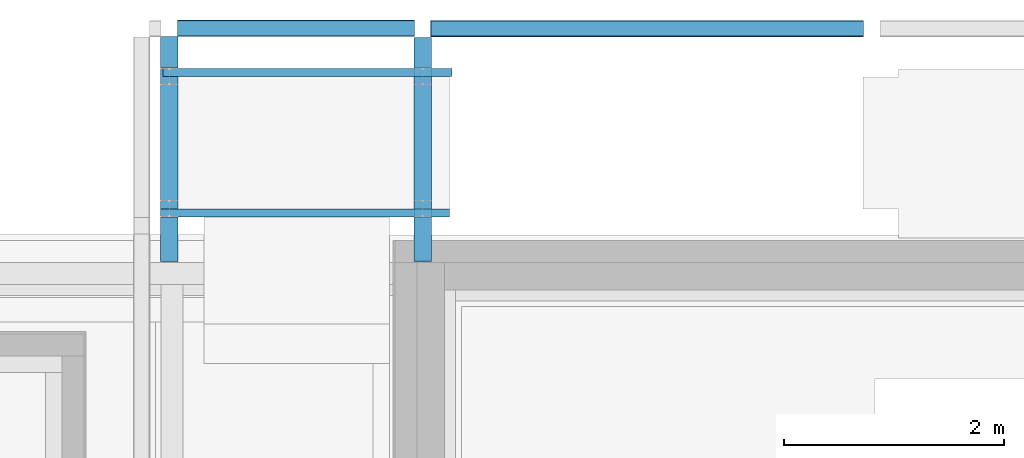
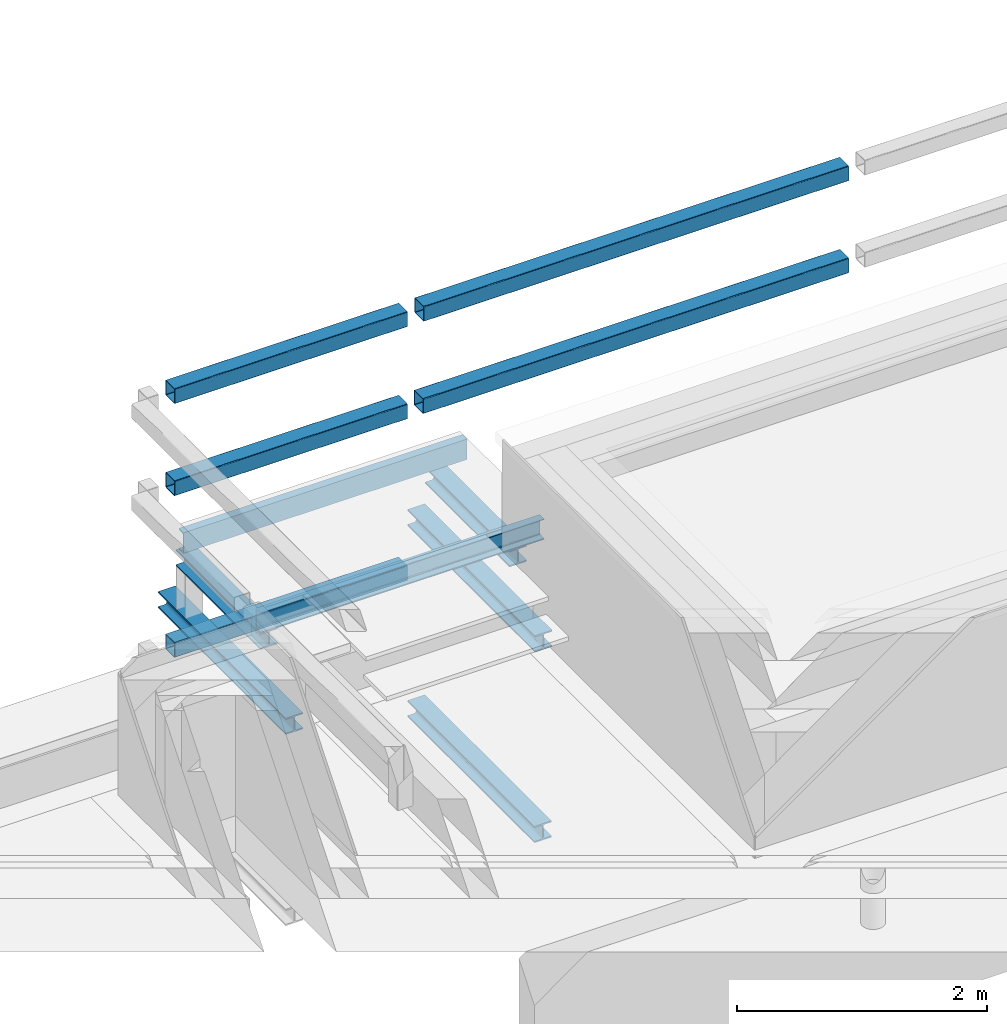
# One storey, part 2 of 8: 13 beams.
"""IFC2X3 building model written with IfcOpenShell, lengths in centimetres."""

from ifc_helpers import new_model, entity, si_unit, converted_unit, derived_unit, direction, frame, frame_2d, origin, place, context, subcontext, project, spatial, polyline, circle_curve, parameter, trimmed, segment, composite_curve, i_section, outline, extrude, material, type_object, element, save


model = new_model("IFC2X3")

# Units and contexts
model_context = context("Model", 3, precision=0.001, world=origin(), true_north=direction((6.12303176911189e-17, 1.0)))
body_context = subcontext(model_context, "Body", "Model", "MODEL_VIEW")
ifc_project = project(units=[si_unit("LENGTHUNIT", "METRE", prefix="CENTI"), si_unit("AREAUNIT", "SQUARE_METRE"), si_unit("VOLUMEUNIT", "CUBIC_METRE"), converted_unit("PLANEANGLEUNIT", "DEGREE", entity("IfcRatioMeasure", 0.0174532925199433), si_unit("PLANEANGLEUNIT", "RADIAN"), dimensions=[0, 0, 0, 0, 0, 0, 0]), si_unit("MASSUNIT", "GRAM", prefix="KILO"), derived_unit("MASSDENSITYUNIT", [(si_unit("MASSUNIT", "GRAM", prefix="KILO"), 1), (si_unit("LENGTHUNIT", "METRE"), -3)]), derived_unit("MOMENTOFINERTIAUNIT", [(si_unit("LENGTHUNIT", "METRE"), 4)]), si_unit("TIMEUNIT", "SECOND"), si_unit("FREQUENCYUNIT", "HERTZ"), si_unit("THERMODYNAMICTEMPERATUREUNIT", "DEGREE_CELSIUS"), derived_unit("THERMALTRANSMITTANCEUNIT", [(si_unit("MASSUNIT", "GRAM", prefix="KILO"), 1), (si_unit("THERMODYNAMICTEMPERATUREUNIT", "KELVIN"), -1), (si_unit("TIMEUNIT", "SECOND"), -3)]), derived_unit("VOLUMETRICFLOWRATEUNIT", [(si_unit("LENGTHUNIT", "METRE"), 3), (si_unit("TIMEUNIT", "SECOND"), -1)]), si_unit("ELECTRICCURRENTUNIT", "AMPERE"), si_unit("ELECTRICVOLTAGEUNIT", "VOLT"), si_unit("POWERUNIT", "WATT"), si_unit("FORCEUNIT", "NEWTON", prefix="KILO"), si_unit("ILLUMINANCEUNIT", "LUX"), si_unit("LUMINOUSFLUXUNIT", "LUMEN"), si_unit("LUMINOUSINTENSITYUNIT", "CANDELA"), derived_unit("USERDEFINED", [(si_unit("MASSUNIT", "GRAM", prefix="KILO"), -1), (si_unit("LENGTHUNIT", "METRE"), -2), (si_unit("TIMEUNIT", "SECOND"), 3), (si_unit("LUMINOUSFLUXUNIT", "LUMEN"), 1)]), derived_unit("LINEARVELOCITYUNIT", [(si_unit("LENGTHUNIT", "METRE"), 1), (si_unit("TIMEUNIT", "SECOND"), -1)]), si_unit("PRESSUREUNIT", "PASCAL"), derived_unit("USERDEFINED", [(si_unit("LENGTHUNIT", "METRE"), -2), (si_unit("MASSUNIT", "GRAM", prefix="KILO"), 1), (si_unit("TIMEUNIT", "SECOND"), -2)]), derived_unit("LINEARFORCEUNIT", [(si_unit("MASSUNIT", "GRAM", prefix="KILO"), 1), (si_unit("LENGTHUNIT", "METRE"), 1), (si_unit("TIMEUNIT", "SECOND"), -2), (si_unit("LENGTHUNIT", "METRE"), -1)]), derived_unit("PLANARFORCEUNIT", [(si_unit("MASSUNIT", "GRAM", prefix="KILO"), 1), (si_unit("LENGTHUNIT", "METRE"), 1), (si_unit("TIMEUNIT", "SECOND"), -2), (si_unit("LENGTHUNIT", "METRE"), -2)])], contexts=[model_context])

# Site, building, storey
site_placement = place(None, origin())
site = spatial("IfcSite", under=ifc_project, at=site_placement, Name="Default", CompositionType="ELEMENT")
building_placement = place(site_placement, origin())
building = spatial("IfcBuilding", under=site, at=building_placement, CompositionType="ELEMENT")
storey_placement = place(building_placement, frame((0.0, 0.0, 970.0)))
storey = spatial("IfcBuildingStorey", under=building, at=storey_placement, Name="Poziom 2K +9,70", CompositionType="ELEMENT", Elevation=970.0)

# Beams
ifc_material = material(Name="Stal konstrukcyjna - S235")
beam_type_1 = type_object("IfcBeamType", Name="STAL RK - Ksztaltowniki zamkniete kwadratowe:RK150x6", PredefinedType="NOTDEFINED")
beam_1_placement = place(storey_placement, frame((-579.26511665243, 2317.08692648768, 85.0), z_axis=(0.0, 0.0, 1.0), x_axis=(-1.0, 0.0, 0.0)))
element("IfcBeam", 1, at=beam_1_placement, inside=storey, type_object=beam_type_1, material=ifc_material, Name="STAL RK - Ksztaltowniki zamkniete kwadratowe:RK150x6", ObjectType="STAL RK - Ksztaltowniki zamkniete kwadratowe:RK150x6", context=body_context, shape_type="SweptSolid", body=[
    extrude(outline(composite_curve([segment(trimmed(circle_curve(frame_2d((-6.29999999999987, -6.30000000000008), x_axis=(1.0, 0.0)), 1.2), [parameter(180.0)], [parameter(270.0)], True, "PARAMETER"), True, "CONTINUOUS"), segment(polyline([(-6.29999999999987, -7.50000000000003), (6.29999999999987, -7.50000000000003)]), True, "CONTINUOUS"), segment(trimmed(circle_curve(frame_2d((6.3000000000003, -6.3000000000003), x_axis=(1.0, 0.0)), 1.19999999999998), [parameter(270.0)], [parameter(360.0)], True, "PARAMETER"), True, "CONTINUOUS"), segment(polyline([(7.50000000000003, -6.30000000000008), (7.50000000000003, 6.29999999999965)]), True, "CONTINUOUS"), segment(trimmed(circle_curve(frame_2d((6.29999999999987, 6.29999999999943), x_axis=(1.0, 0.0)), 1.20000000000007), [parameter(360.0)], [parameter(89.9999999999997)], True, "PARAMETER"), True, "CONTINUOUS"), segment(polyline([(6.29999999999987, 7.49999999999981), (-6.30000000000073, 7.49999999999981)]), True, "CONTINUOUS"), segment(trimmed(circle_curve(frame_2d((-6.30000000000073, 6.30000000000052), x_axis=(1.0, 0.0)), 1.19999999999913), [parameter(89.9999999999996)], [parameter(179.999999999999)], True, "PARAMETER"), True, "CONTINUOUS"), segment(polyline([(-7.50000000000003, 6.30000000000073), (-7.50000000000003, -6.29999999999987)]), True, "CONTINUOUS")], self_intersect=False), holes=[composite_curve([segment(polyline([(-6.90000000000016, -6.29999999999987), (-6.90000000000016, 6.30000000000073)]), True, "CONTINUOUS"), segment(trimmed(circle_curve(frame_2d((-6.30000000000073, 6.30000000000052), x_axis=(1.0, 0.0)), 0.59999999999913), [parameter(90.0000000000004)], [parameter(180.0)], True, "PARAMETER"), False, "CONTINUOUS"), segment(polyline([(-6.30000000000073, 6.89999999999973), (6.29999999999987, 6.89999999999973)]), True, "CONTINUOUS"), segment(trimmed(circle_curve(frame_2d((6.29999999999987, 6.29999999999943), x_axis=(1.0, 0.0)), 0.600000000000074), [parameter(4.07110999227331e-13)], [parameter(90.0000000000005)], True, "PARAMETER"), False, "CONTINUOUS"), segment(polyline([(6.90000000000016, 6.29999999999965), (6.90000000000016, -6.30000000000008)]), True, "CONTINUOUS"), segment(trimmed(circle_curve(frame_2d((6.3000000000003, -6.3000000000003), x_axis=(1.0, 0.0)), 0.59999999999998), [parameter(270.0)], [parameter(5.08888749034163e-13)], True, "PARAMETER"), False, "CONTINUOUS"), segment(polyline([(6.29999999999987, -6.89999999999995), (-6.29999999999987, -6.89999999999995)]), True, "CONTINUOUS"), segment(trimmed(circle_curve(frame_2d((-6.29999999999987, -6.30000000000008), x_axis=(1.0, 0.0)), 0.600000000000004), [parameter(180.0)], [parameter(270.0)], True, "PARAMETER"), False, "CONTINUOUS")], self_intersect=False)]), frame((-0.0999999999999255, -0.259999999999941, 7.50000000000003), z_axis=(1.0, 0.0, 0.0), x_axis=(0.0, -1.0, 0.0)), (0.0, 0.0, 1.0), 393.029193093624),
])
beam_2_placement = place(storey_placement, frame((-579.26511665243, 2317.08692648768, 175.0), z_axis=(0.0, 0.0, 1.0), x_axis=(-1.0, 0.0, 0.0)))
element("IfcBeam", 2, at=beam_2_placement, inside=storey, type_object=beam_type_1, material=ifc_material, Name="STAL RK - Ksztaltowniki zamkniete kwadratowe:RK150x6", ObjectType="STAL RK - Ksztaltowniki zamkniete kwadratowe:RK150x6", context=body_context, shape_type="SweptSolid", body=[
    extrude(outline(composite_curve([segment(trimmed(circle_curve(frame_2d((-6.29999999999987, -6.29999999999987), x_axis=(1.0, 0.0)), 1.2), [parameter(180.0)], [parameter(270.0)], True, "PARAMETER"), True, "CONTINUOUS"), segment(polyline([(-6.29999999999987, -7.49999999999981), (6.29999999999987, -7.49999999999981)]), True, "CONTINUOUS"), segment(trimmed(circle_curve(frame_2d((6.3000000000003, -6.30000000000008), x_axis=(1.0, 0.0)), 1.19999999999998), [parameter(270.0)], [parameter(360.0)], True, "PARAMETER"), True, "CONTINUOUS"), segment(polyline([(7.50000000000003, -6.29999999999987), (7.50000000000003, 6.29999999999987)]), True, "CONTINUOUS"), segment(trimmed(circle_curve(frame_2d((6.29999999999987, 6.29999999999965), x_axis=(1.0, 0.0)), 1.20000000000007), [parameter(360.0)], [parameter(89.9999999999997)], True, "PARAMETER"), True, "CONTINUOUS"), segment(polyline([(6.29999999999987, 7.50000000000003), (-6.30000000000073, 7.50000000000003)]), True, "CONTINUOUS"), segment(trimmed(circle_curve(frame_2d((-6.30000000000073, 6.30000000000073), x_axis=(1.0, 0.0)), 1.19999999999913), [parameter(89.9999999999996)], [parameter(179.999999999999)], True, "PARAMETER"), True, "CONTINUOUS"), segment(polyline([(-7.50000000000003, 6.30000000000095), (-7.50000000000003, -6.29999999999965)]), True, "CONTINUOUS")], self_intersect=False), holes=[composite_curve([segment(polyline([(-6.90000000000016, -6.29999999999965), (-6.90000000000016, 6.30000000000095)]), True, "CONTINUOUS"), segment(trimmed(circle_curve(frame_2d((-6.30000000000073, 6.30000000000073), x_axis=(1.0, 0.0)), 0.59999999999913), [parameter(90.0000000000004)], [parameter(180.0)], True, "PARAMETER"), False, "CONTINUOUS"), segment(polyline([(-6.30000000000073, 6.89999999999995), (6.29999999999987, 6.89999999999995)]), True, "CONTINUOUS"), segment(trimmed(circle_curve(frame_2d((6.29999999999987, 6.29999999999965), x_axis=(1.0, 0.0)), 0.600000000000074), [parameter(4.07110999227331e-13)], [parameter(90.0000000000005)], True, "PARAMETER"), False, "CONTINUOUS"), segment(polyline([(6.90000000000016, 6.29999999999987), (6.90000000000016, -6.29999999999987)]), True, "CONTINUOUS"), segment(trimmed(circle_curve(frame_2d((6.3000000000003, -6.30000000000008), x_axis=(1.0, 0.0)), 0.59999999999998), [parameter(270.0)], [parameter(5.08888749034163e-13)], True, "PARAMETER"), False, "CONTINUOUS"), segment(polyline([(6.29999999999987, -6.89999999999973), (-6.29999999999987, -6.89999999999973)]), True, "CONTINUOUS"), segment(trimmed(circle_curve(frame_2d((-6.29999999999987, -6.29999999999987), x_axis=(1.0, 0.0)), 0.600000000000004), [parameter(180.0)], [parameter(270.0)], True, "PARAMETER"), False, "CONTINUOUS")], self_intersect=False)]), frame((-0.0999999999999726, -0.259999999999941, 7.50000000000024), z_axis=(1.0, 0.0, 0.0), x_axis=(0.0, -1.0, 0.0)), (0.0, 0.0, 1.0), 392.429193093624),
])
beam_3_placement = place(storey_placement, frame((-811.765115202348, 2317.36756435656, -73.0), z_axis=(0.0, 0.0, 1.0), x_axis=(-1.0, 0.0, 0.0)))
element("IfcBeam", 3, at=beam_3_placement, inside=storey, type_object=beam_type_1, material=ifc_material, Name="STAL RK - Ksztaltowniki zamkniete kwadratowe:RK150x6", ObjectType="STAL RK - Ksztaltowniki zamkniete kwadratowe:RK150x6", context=body_context, shape_type="SweptSolid", body=[
    extrude(outline(composite_curve([segment(trimmed(circle_curve(frame_2d((6.29999999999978, -6.29999999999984), x_axis=(1.0, 0.0)), 1.2), [parameter(270.0)], [parameter(359.999999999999)], True, "PARAMETER"), True, "CONTINUOUS"), segment(polyline([(7.49999999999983, -6.29999999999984), (7.49999999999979, 6.29999999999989)]), True, "CONTINUOUS"), segment(trimmed(circle_curve(frame_2d((6.29999999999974, 6.30000000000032), x_axis=(0.0, 1.0)), 1.19999999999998), [parameter(270.0)], [parameter(360.0)], True, "PARAMETER"), True, "CONTINUOUS"), segment(polyline([(6.29999999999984, 7.50000000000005), (-6.2999999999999, 7.5)]), True, "CONTINUOUS"), segment(trimmed(circle_curve(frame_2d((-6.3, 6.29999999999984), x_axis=(-1.0, 0.0)), 1.20000000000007), [parameter(270.0)], [parameter(0.0)], True, "PARAMETER"), True, "CONTINUOUS"), segment(polyline([(-7.49999999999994, 6.29999999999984), (-7.4999999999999, -6.30000000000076)]), True, "CONTINUOUS"), segment(trimmed(circle_curve(frame_2d((-6.30000000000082, -6.30000000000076), x_axis=(0.0, -1.0)), 1.19999999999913), [parameter(270.0)], [parameter(360.0)], True, "PARAMETER"), True, "CONTINUOUS"), segment(polyline([(-6.30000000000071, -7.50000000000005), (6.29999999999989, -7.5)]), True, "CONTINUOUS")], self_intersect=False), holes=[composite_curve([segment(polyline([(6.29999999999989, -6.90000000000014), (-6.30000000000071, -6.90000000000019)]), True, "CONTINUOUS"), segment(trimmed(circle_curve(frame_2d((-6.30000000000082, -6.30000000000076), x_axis=(-1.0, 0.0)), 0.59999999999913), [parameter(4.07110999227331e-13)], [parameter(90.0000000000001)], True, "PARAMETER"), False, "CONTINUOUS"), segment(polyline([(-6.89999999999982, -6.30000000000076), (-6.89999999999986, 6.29999999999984)]), True, "CONTINUOUS"), segment(trimmed(circle_curve(frame_2d((-6.3, 6.29999999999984), x_axis=(0.0, 1.0)), 0.600000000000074), [parameter(5.08888749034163e-14)], [parameter(90.0000000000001)], True, "PARAMETER"), False, "CONTINUOUS"), segment(polyline([(-6.29999999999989, 6.90000000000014), (6.29999999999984, 6.90000000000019)]), True, "CONTINUOUS"), segment(trimmed(circle_curve(frame_2d((6.29999999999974, 6.30000000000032), x_axis=(1.0, 0.0)), 0.59999999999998), [parameter(360.0)], [parameter(90.0000000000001)], True, "PARAMETER"), False, "CONTINUOUS"), segment(polyline([(6.89999999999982, 6.29999999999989), (6.89999999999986, -6.29999999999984)]), True, "CONTINUOUS"), segment(trimmed(circle_curve(frame_2d((6.29999999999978, -6.29999999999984), x_axis=(0.0, -1.0)), 0.600000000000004), [parameter(1.52666624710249e-13)], [parameter(90.0000000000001)], True, "PARAMETER"), False, "CONTINUOUS")], self_intersect=False)]), frame((174.859013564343, -0.259999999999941, 7.50000000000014), z_axis=(1.0, 0.0, 0.0), x_axis=(0.0, 0.0, 1.0)), (0.0, 0.0, 1.0), 215.070805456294),
])
beam_4_placement = place(storey_placement, frame((-811.765115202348, 2317.36756435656, 85.0), z_axis=(0.0, 0.0, 1.0), x_axis=(-1.0, 0.0, 0.0)))
element("IfcBeam", 4, at=beam_4_placement, inside=storey, type_object=beam_type_1, material=ifc_material, Name="STAL RK - Ksztaltowniki zamkniete kwadratowe:RK150x6", ObjectType="STAL RK - Ksztaltowniki zamkniete kwadratowe:RK150x6", context=body_context, shape_type="SweptSolid", body=[
    extrude(outline(composite_curve([segment(trimmed(circle_curve(frame_2d((6.29999999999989, -6.29999999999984), x_axis=(1.0, 0.0)), 1.2), [parameter(270.0)], [parameter(359.999999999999)], True, "PARAMETER"), True, "CONTINUOUS"), segment(polyline([(7.50000000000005, -6.29999999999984), (7.5, 6.29999999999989)]), True, "CONTINUOUS"), segment(trimmed(circle_curve(frame_2d((6.30000000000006, 6.30000000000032), x_axis=(0.0, 1.0)), 1.19999999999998), [parameter(270.0)], [parameter(360.0)], True, "PARAMETER"), True, "CONTINUOUS"), segment(polyline([(6.30000000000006, 7.50000000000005), (-6.29999999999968, 7.5)]), True, "CONTINUOUS"), segment(trimmed(circle_curve(frame_2d((-6.29999999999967, 6.29999999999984), x_axis=(-1.0, 0.0)), 1.20000000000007), [parameter(270.0)], [parameter(0.0)], True, "PARAMETER"), True, "CONTINUOUS"), segment(polyline([(-7.49999999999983, 6.29999999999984), (-7.49999999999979, -6.30000000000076)]), True, "CONTINUOUS"), segment(trimmed(circle_curve(frame_2d((-6.30000000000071, -6.30000000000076), x_axis=(0.0, -1.0)), 1.19999999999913), [parameter(270.0)], [parameter(360.0)], True, "PARAMETER"), True, "CONTINUOUS"), segment(polyline([(-6.30000000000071, -7.50000000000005), (6.29999999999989, -7.5)]), True, "CONTINUOUS")], self_intersect=False), holes=[composite_curve([segment(polyline([(6.29999999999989, -6.90000000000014), (-6.30000000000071, -6.90000000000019)]), True, "CONTINUOUS"), segment(trimmed(circle_curve(frame_2d((-6.30000000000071, -6.30000000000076), x_axis=(-1.0, 0.0)), 0.59999999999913), [parameter(4.07110999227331e-13)], [parameter(90.0000000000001)], True, "PARAMETER"), False, "CONTINUOUS"), segment(polyline([(-6.89999999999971, -6.30000000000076), (-6.89999999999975, 6.29999999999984)]), True, "CONTINUOUS"), segment(trimmed(circle_curve(frame_2d((-6.29999999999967, 6.29999999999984), x_axis=(0.0, 1.0)), 0.600000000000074), [parameter(5.08888749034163e-14)], [parameter(90.0000000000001)], True, "PARAMETER"), False, "CONTINUOUS"), segment(polyline([(-6.29999999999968, 6.90000000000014), (6.30000000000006, 6.90000000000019)]), True, "CONTINUOUS"), segment(trimmed(circle_curve(frame_2d((6.30000000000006, 6.30000000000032), x_axis=(1.0, 0.0)), 0.59999999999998), [parameter(360.0)], [parameter(90.0000000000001)], True, "PARAMETER"), False, "CONTINUOUS"), segment(polyline([(6.89999999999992, 6.29999999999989), (6.89999999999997, -6.29999999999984)]), True, "CONTINUOUS"), segment(trimmed(circle_curve(frame_2d((6.29999999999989, -6.29999999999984), x_axis=(0.0, -1.0)), 0.600000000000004), [parameter(1.52666624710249e-13)], [parameter(90.0000000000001)], True, "PARAMETER"), False, "CONTINUOUS")], self_intersect=False)]), frame((174.859013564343, -0.259999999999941, 7.50000000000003), z_axis=(1.0, 0.0, 0.0), x_axis=(0.0, 0.0, 1.0)), (0.0, 0.0, 1.0), 215.070805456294),
])
beam_5_placement = place(storey_placement, frame((-811.765115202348, 2317.3653336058, 175.0), z_axis=(0.0, 0.0, 1.0), x_axis=(-1.0, 0.0, 0.0)))
element("IfcBeam", 5, at=beam_5_placement, inside=storey, type_object=beam_type_1, material=ifc_material, Name="STAL RK - Ksztaltowniki zamkniete kwadratowe:RK150x6", ObjectType="STAL RK - Ksztaltowniki zamkniete kwadratowe:RK150x6", context=body_context, shape_type="SweptSolid", body=[
    extrude(outline(composite_curve([segment(trimmed(circle_curve(frame_2d((6.29999999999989, -6.29999999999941), x_axis=(1.0, 0.0)), 1.2), [parameter(270.0)], [parameter(359.999999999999)], True, "PARAMETER"), True, "CONTINUOUS"), segment(polyline([(7.50000000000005, -6.29999999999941), (7.5, 6.30000000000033)]), True, "CONTINUOUS"), segment(trimmed(circle_curve(frame_2d((6.30000000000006, 6.30000000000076), x_axis=(0.0, 1.0)), 1.19999999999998), [parameter(270.0)], [parameter(360.0)], True, "PARAMETER"), True, "CONTINUOUS"), segment(polyline([(6.30000000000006, 7.50000000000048), (-6.29999999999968, 7.50000000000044)]), True, "CONTINUOUS"), segment(trimmed(circle_curve(frame_2d((-6.29999999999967, 6.30000000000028), x_axis=(-1.0, 0.0)), 1.20000000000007), [parameter(270.0)], [parameter(0.0)], True, "PARAMETER"), True, "CONTINUOUS"), segment(polyline([(-7.49999999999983, 6.30000000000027), (-7.49999999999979, -6.30000000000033)]), True, "CONTINUOUS"), segment(trimmed(circle_curve(frame_2d((-6.30000000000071, -6.30000000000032), x_axis=(0.0, -1.0)), 1.19999999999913), [parameter(270.0)], [parameter(360.0)], True, "PARAMETER"), True, "CONTINUOUS"), segment(polyline([(-6.30000000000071, -7.49999999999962), (6.29999999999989, -7.49999999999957)]), True, "CONTINUOUS")], self_intersect=False), holes=[composite_curve([segment(polyline([(6.29999999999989, -6.89999999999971), (-6.30000000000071, -6.89999999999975)]), True, "CONTINUOUS"), segment(trimmed(circle_curve(frame_2d((-6.30000000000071, -6.30000000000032), x_axis=(-1.0, 0.0)), 0.59999999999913), [parameter(4.07110999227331e-13)], [parameter(90.0000000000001)], True, "PARAMETER"), False, "CONTINUOUS"), segment(polyline([(-6.89999999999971, -6.30000000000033), (-6.89999999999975, 6.30000000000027)]), True, "CONTINUOUS"), segment(trimmed(circle_curve(frame_2d((-6.29999999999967, 6.30000000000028), x_axis=(0.0, 1.0)), 0.600000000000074), [parameter(5.08888749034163e-14)], [parameter(90.0000000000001)], True, "PARAMETER"), False, "CONTINUOUS"), segment(polyline([(-6.29999999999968, 6.90000000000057), (6.30000000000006, 6.90000000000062)]), True, "CONTINUOUS"), segment(trimmed(circle_curve(frame_2d((6.30000000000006, 6.30000000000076), x_axis=(1.0, 0.0)), 0.59999999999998), [parameter(360.0)], [parameter(90.0000000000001)], True, "PARAMETER"), False, "CONTINUOUS"), segment(polyline([(6.89999999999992, 6.30000000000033), (6.89999999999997, -6.29999999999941)]), True, "CONTINUOUS"), segment(trimmed(circle_curve(frame_2d((6.29999999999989, -6.29999999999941), x_axis=(0.0, -1.0)), 0.600000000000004), [parameter(1.52666624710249e-13)], [parameter(90.0000000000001)], True, "PARAMETER"), False, "CONTINUOUS")], self_intersect=False)]), frame((174.859013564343, -0.259999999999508, 7.50000000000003), z_axis=(1.0, 0.0, 0.0), x_axis=(0.0, 0.0, 1.0)), (0.0, 0.0, 1.0), 215.070805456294),
])
beam_6_placement = place(storey_placement, frame((-811.765115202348, 2317.36756435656, -73.0), z_axis=(0.0, 0.0, 1.0), x_axis=(-1.0, 0.0, 0.0)))
element("IfcBeam", 6, at=beam_6_placement, inside=storey, type_object=beam_type_1, material=ifc_material, Name="STAL RK - Ksztaltowniki zamkniete kwadratowe:RK150x6", ObjectType="STAL RK - Ksztaltowniki zamkniete kwadratowe:RK150x6", context=body_context, shape_type="SweptSolid", body=[
    extrude(outline(composite_curve([segment(trimmed(circle_curve(frame_2d((6.29999999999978, -6.29999999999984), x_axis=(1.0, 0.0)), 1.2), [parameter(270.0)], [parameter(359.999999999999)], True, "PARAMETER"), True, "CONTINUOUS"), segment(polyline([(7.49999999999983, -6.29999999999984), (7.49999999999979, 6.29999999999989)]), True, "CONTINUOUS"), segment(trimmed(circle_curve(frame_2d((6.29999999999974, 6.30000000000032), x_axis=(0.0, 1.0)), 1.19999999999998), [parameter(270.0)], [parameter(360.0)], True, "PARAMETER"), True, "CONTINUOUS"), segment(polyline([(6.29999999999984, 7.50000000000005), (-6.2999999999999, 7.5)]), True, "CONTINUOUS"), segment(trimmed(circle_curve(frame_2d((-6.3, 6.29999999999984), x_axis=(-1.0, 0.0)), 1.20000000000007), [parameter(270.0)], [parameter(0.0)], True, "PARAMETER"), True, "CONTINUOUS"), segment(polyline([(-7.49999999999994, 6.29999999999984), (-7.4999999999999, -6.30000000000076)]), True, "CONTINUOUS"), segment(trimmed(circle_curve(frame_2d((-6.30000000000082, -6.30000000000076), x_axis=(0.0, -1.0)), 1.19999999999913), [parameter(270.0)], [parameter(360.0)], True, "PARAMETER"), True, "CONTINUOUS"), segment(polyline([(-6.30000000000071, -7.50000000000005), (6.29999999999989, -7.5)]), True, "CONTINUOUS")], self_intersect=False), holes=[composite_curve([segment(polyline([(6.29999999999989, -6.90000000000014), (-6.30000000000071, -6.90000000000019)]), True, "CONTINUOUS"), segment(trimmed(circle_curve(frame_2d((-6.30000000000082, -6.30000000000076), x_axis=(-1.0, 0.0)), 0.59999999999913), [parameter(4.07110999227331e-13)], [parameter(90.0000000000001)], True, "PARAMETER"), False, "CONTINUOUS"), segment(polyline([(-6.89999999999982, -6.30000000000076), (-6.89999999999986, 6.29999999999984)]), True, "CONTINUOUS"), segment(trimmed(circle_curve(frame_2d((-6.3, 6.29999999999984), x_axis=(0.0, 1.0)), 0.600000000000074), [parameter(5.08888749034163e-14)], [parameter(90.0000000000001)], True, "PARAMETER"), False, "CONTINUOUS"), segment(polyline([(-6.29999999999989, 6.90000000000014), (6.29999999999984, 6.90000000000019)]), True, "CONTINUOUS"), segment(trimmed(circle_curve(frame_2d((6.29999999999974, 6.30000000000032), x_axis=(1.0, 0.0)), 0.59999999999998), [parameter(360.0)], [parameter(90.0000000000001)], True, "PARAMETER"), False, "CONTINUOUS"), segment(polyline([(6.89999999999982, 6.29999999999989), (6.89999999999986, -6.29999999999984)]), True, "CONTINUOUS"), segment(trimmed(circle_curve(frame_2d((6.29999999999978, -6.29999999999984), x_axis=(0.0, -1.0)), 0.600000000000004), [parameter(1.52666624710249e-13)], [parameter(90.0000000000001)], True, "PARAMETER"), False, "CONTINUOUS")], self_intersect=False)]), frame((174.859013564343, -0.259999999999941, 7.50000000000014), z_axis=(1.0, 0.0, 0.0), x_axis=(0.0, 0.0, 1.0)), (0.0, 0.0, 1.0), 215.070805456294),
])
beam_type_2 = type_object("IfcBeamType", Name="HE-B:HEB160", PredefinedType="NOTDEFINED")
beam_7_placement = place(storey_placement, frame((-979.094309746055, 2309.7124511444, -189.0), z_axis=(0.0, 0.0, 1.0), x_axis=(0.0, -1.0, 0.0)))
element("IfcBeam", 7, at=beam_7_placement, inside=storey, type_object=beam_type_2, material=ifc_material, Name="HE-B:HEB160", ObjectType="HE-B:HEB160", context=body_context, shape_type="SweptSolid", body=[
    extrude(i_section(OverallWidth=16.0, OverallDepth=16.0, WebThickness=0.800000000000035, FlangeThickness=1.30000000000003, FilletRadius=1.50000000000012, at=frame_2d((2.1627144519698e-13, 3.24629212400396e-13), x_axis=(0.0, 1.0))), frame((0.289999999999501, 0.0, -8.0), z_axis=(1.0, 0.0, 0.0), x_axis=(0.0, 0.0, -1.0)), (0.0, 0.0, 1.0), 203.02),
])
beam_8_placement = place(storey_placement, frame((-979.094309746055, 2309.7124511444, -2.39999999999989), z_axis=(0.0, 0.0, 1.0), x_axis=(0.0, -1.0, 0.0)))
element("IfcBeam", 8, at=beam_8_placement, inside=storey, type_object=beam_type_2, material=ifc_material, Name="HE-B:HEB160", ObjectType="HE-B:HEB160", context=body_context, shape_type="SweptSolid", body=[
    extrude(i_section(OverallWidth=16.0, OverallDepth=16.0, WebThickness=0.800000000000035, FlangeThickness=1.30000000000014, FilletRadius=1.50000000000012, at=frame_2d((0.0, 3.24629212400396e-13), x_axis=(0.0, 1.0))), frame((0.300000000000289, 0.0, -8.0), z_axis=(1.0, 0.0, 0.0), x_axis=(0.0, 0.0, -1.0)), (0.0, 0.0, 1.0), 203.7),
])
beam_9_placement = place(storey_placement, frame((-1209.22475324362, 2309.7124511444, -2.39999999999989), z_axis=(0.0, 0.0, 1.0), x_axis=(0.0, -1.0, 0.0)))
element("IfcBeam", 9, at=beam_9_placement, inside=storey, type_object=beam_type_2, material=ifc_material, Name="HE-B:HEB160", ObjectType="HE-B:HEB160", context=body_context, shape_type="SweptSolid", body=[
    extrude(i_section(OverallWidth=16.0, OverallDepth=16.0, WebThickness=0.800000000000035, FlangeThickness=1.30000000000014, FilletRadius=1.50000000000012, at=frame_2d((0.0, 3.24629212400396e-13), x_axis=(0.0, 1.0))), frame((-0.210000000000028, 0.0, -8.0), z_axis=(1.0, 0.0, 0.0), x_axis=(0.0, 0.0, -1.0)), (0.0, 0.0, 1.0), 204.21),
])
beam_10_placement = place(storey_placement, frame((-1209.22475324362, 2281.4124511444, 56.0), z_axis=(0.0, 0.0, 1.0), x_axis=(0.0, -1.0, 0.0)))
element("IfcBeam", 10, at=beam_10_placement, inside=storey, type_object=beam_type_2, material=ifc_material, Name="HE-B:HEB160", ObjectType="HE-B:HEB160", context=body_context, shape_type="SweptSolid", body=[
    extrude(i_section(OverallWidth=15.9999999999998, OverallDepth=16.0, WebThickness=0.800000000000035, FlangeThickness=1.30000000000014, FilletRadius=1.50000000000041, at=frame_2d((1.07913677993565e-13, 3.24629212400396e-13), x_axis=(0.0, 1.0))), frame((0.0, 0.0, -8.0), z_axis=(1.0, 0.0, 0.0), x_axis=(0.0, 0.0, -1.0)), (0.0, 0.0, 1.0), 135.0),
])
beam_11_placement = place(storey_placement, frame((-979.094309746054, 2281.4124511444, 56.0), z_axis=(0.0, 0.0, 1.0), x_axis=(0.0, -1.0, 0.0)))
element("IfcBeam", 11, at=beam_11_placement, inside=storey, type_object=beam_type_2, material=ifc_material, Name="HE-B:HEB160", ObjectType="HE-B:HEB160", context=body_context, shape_type="SweptSolid", body=[
    extrude(i_section(OverallWidth=15.9999999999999, OverallDepth=16.0, WebThickness=0.800000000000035, FlangeThickness=1.30000000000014, FilletRadius=1.50000000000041, at=frame_2d((1.07913677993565e-13, -1.07913677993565e-13), x_axis=(0.0, 1.0))), frame((0.0, 0.0, -8.0), z_axis=(1.0, 0.0, 0.0), x_axis=(0.0, 0.0, -1.0)), (0.0, 0.0, 1.0), 135.0),
])
beam_type_3 = type_object("IfcBeamType", Name="C:C200", PredefinedType="NOTDEFINED")
beam_12_placement = place(storey_placement, frame((-952.794934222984, 2275.6360850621, 56.0), z_axis=(0.0, 0.0, 1.0), x_axis=(-1.0, 0.0, 0.0)))
element("IfcBeam", 12, at=beam_12_placement, inside=storey, type_object=beam_type_3, material=ifc_material, Name="C:C200", ObjectType="C:C200", context=body_context, shape_type="SweptSolid", body=[
    extrude(outline(composite_curve([segment(polyline([(9.70369668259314, -3.38230372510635), (10.0, -3.38230372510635)]), True, "CONTINUOUS"), segment(polyline([(10.0, -3.38230372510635), (10.0, 4.11769627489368)]), True, "CONTINUOUS"), segment(polyline([(10.0, 4.11769627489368), (-10.0, 4.11769627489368)]), True, "CONTINUOUS"), segment(polyline([(-10.0, 4.11769627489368), (-10.0, -3.38230372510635)]), True, "CONTINUOUS"), segment(polyline([(-10.0, -3.38230372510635), (-9.70369668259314, -3.38230372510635)]), True, "CONTINUOUS"), segment(trimmed(circle_curve(frame_2d((-9.70369668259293, -2.78230372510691), x_axis=(0.0, -1.0)), 0.599999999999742), [parameter(0.0)], [parameter(85.430000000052)], True, "PARAMETER"), True, "CONTINUOUS"), segment(polyline([(-9.10560424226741, -2.83010992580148), (-8.70279656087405, 2.20932482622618)]), True, "CONTINUOUS"), segment(trimmed(circle_curve(frame_2d((-7.55645271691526, 2.11769627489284), x_axis=(-0.996820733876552, 0.079677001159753)), 1.15000000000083), [parameter(274.570000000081)], [parameter(0.0)], True, "PARAMETER"), False, "CONTINUOUS"), segment(polyline([(-7.55645271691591, 3.26769627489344), (7.55645271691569, 3.26769627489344)]), True, "CONTINUOUS"), segment(trimmed(circle_curve(frame_2d((7.55645271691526, 2.11769627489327), x_axis=(0.0, 1.0)), 1.15000000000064), [parameter(274.570000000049)], [parameter(0.0)], True, "PARAMETER"), False, "CONTINUOUS"), segment(polyline([(8.70279656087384, 2.20932482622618), (9.10560424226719, -2.83010992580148)]), True, "CONTINUOUS"), segment(trimmed(circle_curve(frame_2d((9.70369668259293, -2.78230372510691), x_axis=(-0.996820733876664, -0.0796770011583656)), 0.599999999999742), [parameter(0.0)], [parameter(85.430000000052)], True, "PARAMETER"), True, "CONTINUOUS")], self_intersect=False)), frame((-0.183041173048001, -2.10769627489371, 10.0), z_axis=(1.0, 0.0, 0.0), x_axis=(0.0, 0.0, -1.0)), (0.0, 0.0, 1.0), 262.183041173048),
])
beam_13_placement = place(storey_placement, frame((-971.094309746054, 2151.61610789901, 56.0), z_axis=(0.0, 0.0, 1.0), x_axis=(-1.0, 0.0, 0.0)))
element("IfcBeam", 13, at=beam_13_placement, inside=storey, type_object=beam_type_3, material=ifc_material, Name="C:C200", ObjectType="C:C200", context=body_context, shape_type="SweptSolid", body=[
    extrude(outline(composite_curve([segment(polyline([(-10.0, -4.11769627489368), (10.0, -4.11769627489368)]), True, "CONTINUOUS"), segment(polyline([(10.0, -4.11769627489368), (10.0, 3.38230372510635)]), True, "CONTINUOUS"), segment(polyline([(10.0, 3.38230372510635), (9.70369668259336, 3.38230372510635)]), True, "CONTINUOUS"), segment(trimmed(circle_curve(frame_2d((9.70369668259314, 2.78230372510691), x_axis=(0.0, 1.0)), 0.599999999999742), [parameter(0.0)], [parameter(85.430000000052)], True, "PARAMETER"), True, "CONTINUOUS"), segment(polyline([(9.10560424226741, 2.83010992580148), (8.70279656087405, -2.20932482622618)]), True, "CONTINUOUS"), segment(trimmed(circle_curve(frame_2d((7.55645271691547, -2.11769627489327), x_axis=(0.99682073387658, -0.0796770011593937)), 1.15000000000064), [parameter(274.570000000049)], [parameter(0.0)], True, "PARAMETER"), False, "CONTINUOUS"), segment(polyline([(7.55645271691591, -3.26769627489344), (-7.55645271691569, -3.26769627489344)]), True, "CONTINUOUS"), segment(trimmed(circle_curve(frame_2d((-7.55645271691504, -2.11769627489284), x_axis=(0.0, -1.0)), 1.15000000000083), [parameter(274.570000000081)], [parameter(0.0)], True, "PARAMETER"), False, "CONTINUOUS"), segment(polyline([(-8.70279656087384, -2.20932482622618), (-9.10560424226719, 2.83010992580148)]), True, "CONTINUOUS"), segment(trimmed(circle_curve(frame_2d((-9.70369668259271, 2.78230372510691), x_axis=(0.996820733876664, 0.0796770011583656)), 0.599999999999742), [parameter(0.0)], [parameter(85.430000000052)], True, "PARAMETER"), True, "CONTINUOUS"), segment(polyline([(-9.70369668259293, 3.38230372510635), (-10.0, 3.38230372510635)]), True, "CONTINUOUS"), segment(polyline([(-10.0, 3.38230372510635), (-10.0, -4.11769627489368)]), True, "CONTINUOUS")], self_intersect=False)), frame((-16.0525976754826, 2.10769627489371, 10.0), z_axis=(1.0, 0.0, 0.0), x_axis=(0.0, 0.0, -1.0)), (0.0, 0.0, 1.0), 262.17988754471),
])

save(model, "model.ifc")
